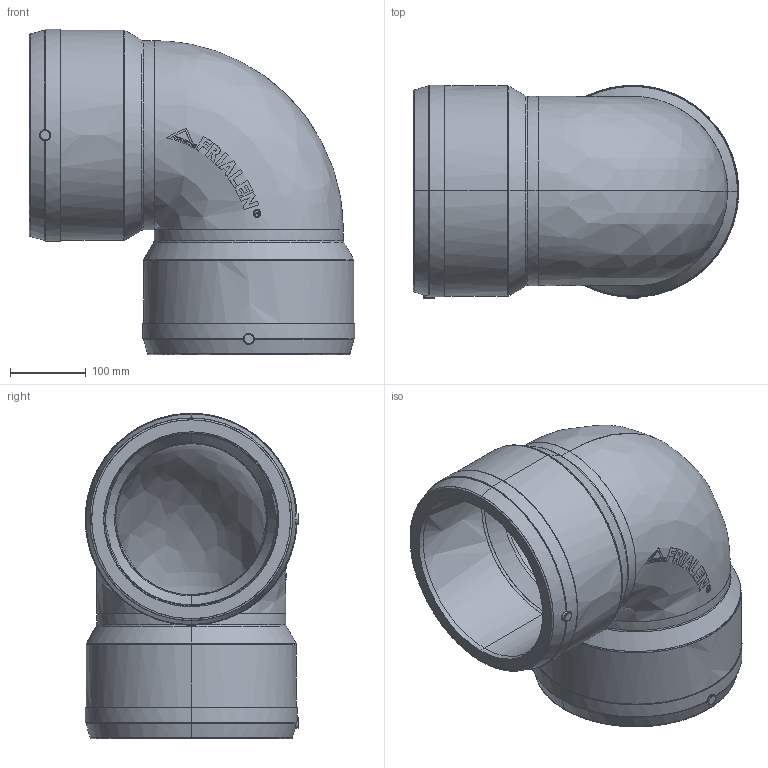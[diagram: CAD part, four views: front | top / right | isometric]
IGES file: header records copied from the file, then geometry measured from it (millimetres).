
Start section:  PTC IGES file: w90_d225_01.igs
Global section: file name: w90_d225_01.igs; native system: Pro/ENGINEER by Parametric Technology Corporation; preprocessor: 2011490; author: mtunjic; organization: Unknown; date: 20130812.085720; units: millimetre
Bounding box: 430 x 282.15 x 430 mm (x, y, z)
Surface area: 836019.6 mm2 (no closed solid volume)
Topology: 0 solids, 0 shells, 283 faces, 1448 edges, 1446 vertices
Faces by surface type: bspline 283
